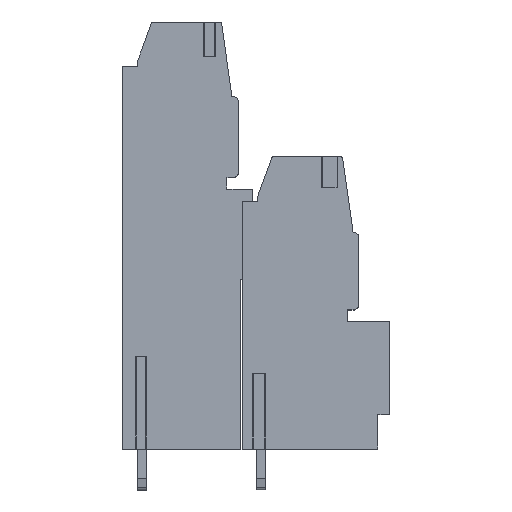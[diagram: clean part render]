
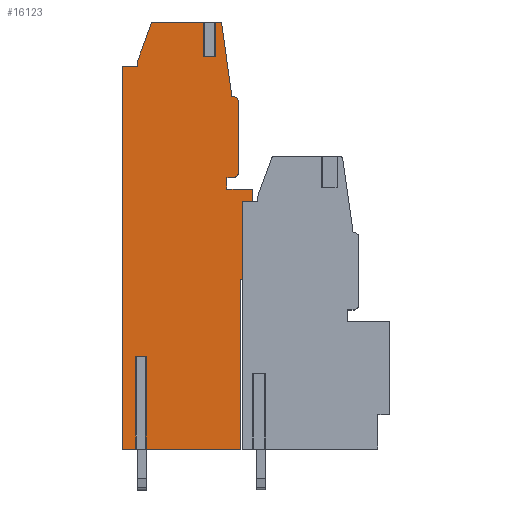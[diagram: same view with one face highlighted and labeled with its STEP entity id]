
A CAD part, top view. The second image highlights one B-rep face of the part: STEP entity #16123.
In plain terms, the highlighted planar face has unit normal (0, 0, 1).
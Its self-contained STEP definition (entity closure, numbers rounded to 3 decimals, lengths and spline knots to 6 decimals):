
#11167=DIRECTION('',(-0.342,-0.94,0.));
#11168=VECTOR('',#11167,0.003446);
#11169=CARTESIAN_POINT('',(-0.007881,0.036668,-0.00311));
#11170=LINE('',#11169,#11168);
#11171=CARTESIAN_POINT('',(-0.007693,0.0366,-0.00311));
#11172=DIRECTION('',(0.,0.,1.));
#11173=DIRECTION('',(0.,1.,0.));
#11174=AXIS2_PLACEMENT_3D('',#11171,#11172,#11173);
#11176=CARTESIAN_POINT('',(-0.002007,0.0366,-0.00311));
#11177=DIRECTION('',(0.,0.,1.));
#11178=DIRECTION('',(0.99,0.139,0.));
#11179=AXIS2_PLACEMENT_3D('',#11176,#11177,#11178);
#11181=DIRECTION('',(-0.139,0.99,0.));
#11182=VECTOR('',#11181,0.006289);
#11183=CARTESIAN_POINT('',(-0.000934,0.0304,-0.00311));
#11184=LINE('',#11183,#11182);
#11185=CARTESIAN_POINT('',(-0.00086,0.0299,-0.00311));
#11186=DIRECTION('',(0.,0.,1.));
#11187=DIRECTION('',(1.,0.,0.));
#11188=AXIS2_PLACEMENT_3D('',#11185,#11186,#11187);
#11190=CARTESIAN_POINT('',(-0.00086,0.0239,-0.00311));
#11191=DIRECTION('',(0.,0.,1.));
#11192=DIRECTION('',(0.,-1.,0.));
#11193=AXIS2_PLACEMENT_3D('',#11190,#11191,#11192);
#11195=DIRECTION('',(0.,1.,0.));
#11196=VECTOR('',#11195,0.008);
#11197=CARTESIAN_POINT('',(-0.008311,0.,-0.00311));
#11198=LINE('',#11197,#11196);
#11208=DIRECTION('',(-1.,0.,0.));
#11209=VECTOR('',#11208,0.000898);
#11210=CARTESIAN_POINT('',(-0.008311,0.008,-0.00311));
#11211=LINE('',#11210,#11209);
#11235=DIRECTION('',(0.,-1.,0.));
#11236=VECTOR('',#11235,0.008);
#11237=CARTESIAN_POINT('',(-0.009209,0.008,-0.00311));
#11238=LINE('',#11237,#11236);
#11288=DIRECTION('',(-1.,0.,0.));
#11289=VECTOR('',#11288,0.001151);
#11290=CARTESIAN_POINT('',(-0.009209,0.,-0.00311));
#11291=LINE('',#11290,#11289);
#11320=DIRECTION('',(-1.,0.,0.));
#11321=VECTOR('',#11320,0.008111);
#11322=CARTESIAN_POINT('',(-0.0002,0.,-0.00311));
#11323=LINE('',#11322,#11321);
#11378=DIRECTION('',(0.,1.,0.));
#11379=VECTOR('',#11378,0.0005);
#11380=CARTESIAN_POINT('',(-0.00906,0.03293,-0.00311));
#11381=LINE('',#11380,#11379);
#11558=DIRECTION('',(0.,1.,0.));
#11559=VECTOR('',#11558,0.03293);
#11560=CARTESIAN_POINT('',(-0.01036,0.,-0.00311));
#11561=LINE('',#11560,#11559);
#11618=DIRECTION('',(1.,0.,0.));
#11619=VECTOR('',#11618,0.0013);
#11620=CARTESIAN_POINT('',(-0.01036,0.03293,-0.00311));
#11621=LINE('',#11620,#11619);
#12343=DIRECTION('',(1.,0.,0.));
#12344=VECTOR('',#12343,0.000456);
#12345=CARTESIAN_POINT('',(-0.002464,0.0368,-0.00311));
#12346=LINE('',#12345,#12344);
#12375=DIRECTION('',(1.,0.,0.));
#12376=VECTOR('',#12375,0.004437);
#12377=CARTESIAN_POINT('',(-0.007693,0.0368,-0.00311));
#12378=LINE('',#12377,#12376);
#13077=DIRECTION('',(0.,-1.,0.));
#13078=VECTOR('',#13077,0.006);
#13079=CARTESIAN_POINT('',(-0.00036,0.0299,-0.00311));
#13080=LINE('',#13079,#13078);
#13880=DIRECTION('',(1.,0.,0.));
#13881=VECTOR('',#13880,0.000074);
#13882=CARTESIAN_POINT('',(-0.000934,0.0304,-0.00311));
#13883=LINE('',#13882,#13881);
#14015=DIRECTION('',(0.,-1.,0.));
#14016=VECTOR('',#14015,0.0146);
#14017=CARTESIAN_POINT('',(-0.0002,0.0146,-0.00311));
#14018=LINE('',#14017,#14016);
#14083=DIRECTION('',(0.,-1.,0.));
#14084=VECTOR('',#14083,0.0078);
#14085=CARTESIAN_POINT('',(0.0008,0.0224,-0.00311));
#14086=LINE('',#14085,#14084);
#14095=DIRECTION('',(1.,0.,0.));
#14096=VECTOR('',#14095,0.00216);
#14097=CARTESIAN_POINT('',(-0.00136,0.0224,-0.00311));
#14098=LINE('',#14097,#14096);
#14107=DIRECTION('',(0.,-1.,0.));
#14108=VECTOR('',#14107,0.001);
#14109=CARTESIAN_POINT('',(-0.00136,0.0234,-0.00311));
#14110=LINE('',#14109,#14108);
#14115=DIRECTION('',(-1.,0.,0.));
#14116=VECTOR('',#14115,0.0005);
#14117=CARTESIAN_POINT('',(-0.00086,0.0234,-0.00311));
#14118=LINE('',#14117,#14116);
#14555=DIRECTION('',(-1.,0.,0.));
#14556=VECTOR('',#14555,0.001);
#14557=CARTESIAN_POINT('',(0.0008,0.0146,-0.00311));
#14558=LINE('',#14557,#14556);
#14773=DIRECTION('',(0.,1.,0.));
#14774=VECTOR('',#14773,0.003);
#14775=CARTESIAN_POINT('',(-0.002464,0.0338,-0.00311));
#14776=LINE('',#14775,#14774);
#14801=DIRECTION('',(0.,-1.,0.));
#14802=VECTOR('',#14801,0.003);
#14803=CARTESIAN_POINT('',(-0.003256,0.0368,-0.00311));
#14804=LINE('',#14803,#14802);
#14814=DIRECTION('',(1.,0.,0.));
#14815=VECTOR('',#14814,0.000793);
#14816=CARTESIAN_POINT('',(-0.003256,0.0338,-0.00311));
#14817=LINE('',#14816,#14815);
#14997=CARTESIAN_POINT('',(-0.008311,0.008,-0.00311));
#14998=CARTESIAN_POINT('',(-0.009209,0.008,-0.00311));
#14999=VERTEX_POINT('',#14997);
#15000=VERTEX_POINT('',#14998);
#15001=CARTESIAN_POINT('',(-0.009209,0.,-0.00311));
#15002=VERTEX_POINT('',#15001);
#15003=CARTESIAN_POINT('',(-0.01036,0.,-0.00311));
#15004=VERTEX_POINT('',#15003);
#15005=CARTESIAN_POINT('',(-0.01036,0.03293,-0.00311));
#15006=VERTEX_POINT('',#15005);
#15007=CARTESIAN_POINT('',(-0.00906,0.03293,-0.00311));
#15008=VERTEX_POINT('',#15007);
#15009=CARTESIAN_POINT('',(-0.00906,0.03343,-0.00311));
#15010=VERTEX_POINT('',#15009);
#15011=CARTESIAN_POINT('',(-0.007881,0.036668,-0.00311));
#15012=VERTEX_POINT('',#15011);
#15013=CARTESIAN_POINT('',(-0.007693,0.0368,-0.00311));
#15014=VERTEX_POINT('',#15013);
#15015=CARTESIAN_POINT('',(-0.003256,0.0368,-0.00311));
#15016=VERTEX_POINT('',#15015);
#15017=CARTESIAN_POINT('',(-0.003256,0.0338,-0.00311));
#15018=VERTEX_POINT('',#15017);
#15019=CARTESIAN_POINT('',(-0.002464,0.0338,-0.00311));
#15020=VERTEX_POINT('',#15019);
#15021=CARTESIAN_POINT('',(-0.002464,0.0368,-0.00311));
#15022=VERTEX_POINT('',#15021);
#15023=CARTESIAN_POINT('',(-0.002007,0.0368,-0.00311));
#15024=VERTEX_POINT('',#15023);
#15025=CARTESIAN_POINT('',(-0.001809,0.036628,-0.00311));
#15026=VERTEX_POINT('',#15025);
#15027=CARTESIAN_POINT('',(-0.000934,0.0304,-0.00311));
#15028=VERTEX_POINT('',#15027);
#15029=CARTESIAN_POINT('',(-0.00086,0.0304,-0.00311));
#15030=VERTEX_POINT('',#15029);
#15031=CARTESIAN_POINT('',(-0.00036,0.0299,-0.00311));
#15032=VERTEX_POINT('',#15031);
#15033=CARTESIAN_POINT('',(-0.00036,0.0239,-0.00311));
#15034=VERTEX_POINT('',#15033);
#15035=CARTESIAN_POINT('',(-0.00086,0.0234,-0.00311));
#15036=VERTEX_POINT('',#15035);
#15037=CARTESIAN_POINT('',(-0.00136,0.0234,-0.00311));
#15038=VERTEX_POINT('',#15037);
#15039=CARTESIAN_POINT('',(-0.00136,0.0224,-0.00311));
#15040=VERTEX_POINT('',#15039);
#15041=CARTESIAN_POINT('',(0.0008,0.0224,-0.00311));
#15042=VERTEX_POINT('',#15041);
#15043=CARTESIAN_POINT('',(0.0008,0.0146,-0.00311));
#15044=VERTEX_POINT('',#15043);
#15045=CARTESIAN_POINT('',(-0.0002,0.0146,-0.00311));
#15046=VERTEX_POINT('',#15045);
#15047=CARTESIAN_POINT('',(-0.0002,0.,-0.00311));
#15048=VERTEX_POINT('',#15047);
#15049=CARTESIAN_POINT('',(-0.008311,0.,-0.00311));
#15050=VERTEX_POINT('',#15049);
#16062=CARTESIAN_POINT('',(-0.00506,0.,-0.00311));
#16063=DIRECTION('',(0.,0.,1.));
#16064=DIRECTION('',(1.,0.,0.));
#16065=AXIS2_PLACEMENT_3D('',#16062,#16063,#16064);
#16066=PLANE('',#16065);
#16068=ORIENTED_EDGE('',*,*,#16067,.T.);
#16070=ORIENTED_EDGE('',*,*,#16069,.T.);
#16072=ORIENTED_EDGE('',*,*,#16071,.T.);
#16074=ORIENTED_EDGE('',*,*,#16073,.T.);
#16076=ORIENTED_EDGE('',*,*,#16075,.T.);
#16078=ORIENTED_EDGE('',*,*,#16077,.T.);
#16080=ORIENTED_EDGE('',*,*,#16079,.T.);
#16082=ORIENTED_EDGE('',*,*,#16081,.F.);
#16084=ORIENTED_EDGE('',*,*,#16083,.F.);
#16086=ORIENTED_EDGE('',*,*,#16085,.T.);
#16088=ORIENTED_EDGE('',*,*,#16087,.T.);
#16090=ORIENTED_EDGE('',*,*,#16089,.T.);
#16092=ORIENTED_EDGE('',*,*,#16091,.T.);
#16094=ORIENTED_EDGE('',*,*,#16093,.T.);
#16096=ORIENTED_EDGE('',*,*,#16095,.F.);
#16098=ORIENTED_EDGE('',*,*,#16097,.F.);
#16100=ORIENTED_EDGE('',*,*,#16099,.T.);
#16102=ORIENTED_EDGE('',*,*,#16101,.F.);
#16104=ORIENTED_EDGE('',*,*,#16103,.T.);
#16106=ORIENTED_EDGE('',*,*,#16105,.F.);
#16108=ORIENTED_EDGE('',*,*,#16107,.T.);
#16110=ORIENTED_EDGE('',*,*,#16109,.T.);
#16112=ORIENTED_EDGE('',*,*,#16111,.T.);
#16114=ORIENTED_EDGE('',*,*,#16113,.T.);
#16116=ORIENTED_EDGE('',*,*,#16115,.T.);
#16118=ORIENTED_EDGE('',*,*,#16117,.T.);
#16120=ORIENTED_EDGE('',*,*,#16119,.T.);
#16121=EDGE_LOOP('',(#16068,#16070,#16072,#16074,#16076,#16078,#16080,#16082,
#16084,#16086,#16088,#16090,#16092,#16094,#16096,#16098,#16100,#16102,#16104,
#16106,#16108,#16110,#16112,#16114,#16116,#16118,#16120));
#16122=FACE_OUTER_BOUND('',#16121,.F.);
#16123=ADVANCED_FACE('',(#16122),#16066,.T.);
#11175=CIRCLE('',#11174,0.0002);
#11180=CIRCLE('',#11179,0.0002);
#11189=CIRCLE('',#11188,0.0005);
#11194=CIRCLE('',#11193,0.0005);
#16067=EDGE_CURVE('',#15050,#14999,#11198,.T.);
#16069=EDGE_CURVE('',#14999,#15000,#11211,.T.);
#16071=EDGE_CURVE('',#15000,#15002,#11238,.T.);
#16073=EDGE_CURVE('',#15002,#15004,#11291,.T.);
#16075=EDGE_CURVE('',#15004,#15006,#11561,.T.);
#16077=EDGE_CURVE('',#15006,#15008,#11621,.T.);
#16079=EDGE_CURVE('',#15008,#15010,#11381,.T.);
#16081=EDGE_CURVE('',#15012,#15010,#11170,.T.);
#16083=EDGE_CURVE('',#15014,#15012,#11175,.T.);
#16085=EDGE_CURVE('',#15014,#15016,#12378,.T.);
#16087=EDGE_CURVE('',#15016,#15018,#14804,.T.);
#16089=EDGE_CURVE('',#15018,#15020,#14817,.T.);
#16091=EDGE_CURVE('',#15020,#15022,#14776,.T.);
#16093=EDGE_CURVE('',#15022,#15024,#12346,.T.);
#16095=EDGE_CURVE('',#15026,#15024,#11180,.T.);
#16097=EDGE_CURVE('',#15028,#15026,#11184,.T.);
#16099=EDGE_CURVE('',#15028,#15030,#13883,.T.);
#16101=EDGE_CURVE('',#15032,#15030,#11189,.T.);
#16103=EDGE_CURVE('',#15032,#15034,#13080,.T.);
#16105=EDGE_CURVE('',#15036,#15034,#11194,.T.);
#16107=EDGE_CURVE('',#15036,#15038,#14118,.T.);
#16109=EDGE_CURVE('',#15038,#15040,#14110,.T.);
#16111=EDGE_CURVE('',#15040,#15042,#14098,.T.);
#16113=EDGE_CURVE('',#15042,#15044,#14086,.T.);
#16115=EDGE_CURVE('',#15044,#15046,#14558,.T.);
#16117=EDGE_CURVE('',#15046,#15048,#14018,.T.);
#16119=EDGE_CURVE('',#15048,#15050,#11323,.T.);
